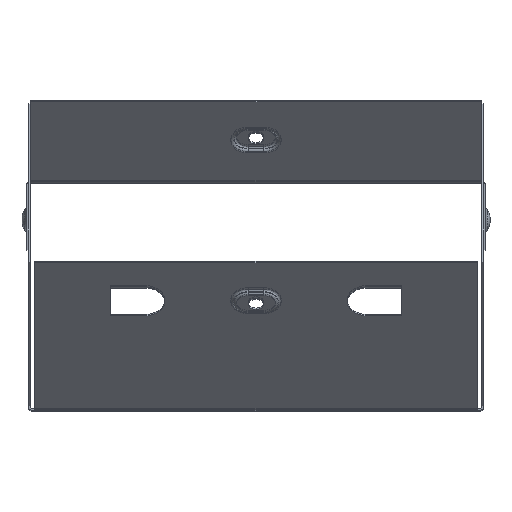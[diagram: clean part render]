
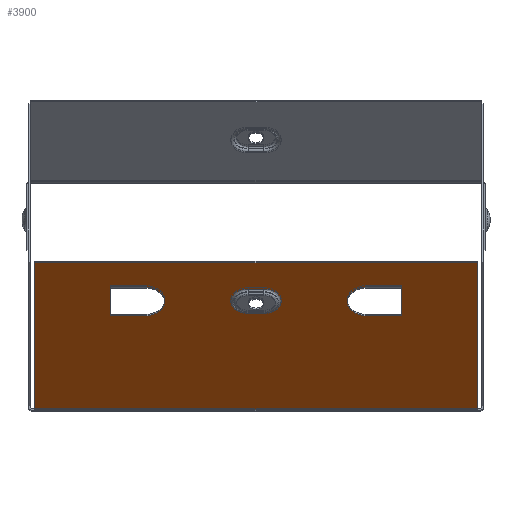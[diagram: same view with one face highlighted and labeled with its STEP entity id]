
A CAD part, top view. The second image highlights one B-rep face of the part: STEP entity #3900.
In plain terms, the highlighted planar face has unit normal (0, -0.707, 0.707).
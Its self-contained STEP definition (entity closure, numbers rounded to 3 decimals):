
#109 = AXIS2_PLACEMENT_3D ( 'NONE', #14232, #6458, #7566 ) ;
#141 = DIRECTION ( 'NONE',  ( 1., 0., 0. ) ) ;
#276 = VERTEX_POINT ( 'NONE', #6050 ) ;
#576 = EDGE_CURVE ( 'NONE', #11430, #632, #8690, .T. ) ;
#632 = VERTEX_POINT ( 'NONE', #1393 ) ;
#692 = CARTESIAN_POINT ( 'NONE',  ( -49., -46.53, 158.52 ) ) ;
#695 = AXIS2_PLACEMENT_3D ( 'NONE', #13648, #13797, #9340 ) ;
#696 = FACE_BOUND ( 'NONE', #12034, .T. ) ;
#721 = DIRECTION ( 'NONE',  ( 0., -0.707, -0.707 ) ) ;
#767 = CARTESIAN_POINT ( 'NONE',  ( 64., -46.53, 158.52 ) ) ;
#786 = CARTESIAN_POINT ( 'NONE',  ( 98.2, -35.923, 169.127 ) ) ;
#965 = LINE ( 'NONE', #4245, #13765 ) ;
#1062 = CARTESIAN_POINT ( 'NONE',  ( -49., -59.257, 145.793 ) ) ;
#1110 = CARTESIAN_POINT ( 'NONE',  ( -3.5, -47.521, 157.529 ) ) ;
#1393 = CARTESIAN_POINT ( 'NONE',  ( -97.299, -100.273, 104.777 ) ) ;
#1472 = EDGE_CURVE ( 'NONE', #5267, #10057, #965, .T. ) ;
#1538 = LINE ( 'NONE', #786, #13446 ) ;
#1540 = VECTOR ( 'NONE', #13554, 1000. ) ;
#1549 = ORIENTED_EDGE ( 'NONE', *, *, #11418, .T. ) ;
#1562 = LINE ( 'NONE', #6163, #7270 ) ;
#1624 = CARTESIAN_POINT ( 'NONE',  ( -64., -46.53, 158.52 ) ) ;
#1784 = VERTEX_POINT ( 'NONE', #12934 ) ;
#2026 = VERTEX_POINT ( 'NONE', #1110 ) ;
#2077 = CARTESIAN_POINT ( 'NONE',  ( 3.5, -58.266, 146.784 ) ) ;
#2461 = EDGE_CURVE ( 'NONE', #6124, #7941, #11900, .T. ) ;
#2620 = FACE_BOUND ( 'NONE', #2960, .T. ) ;
#2684 = LINE ( 'NONE', #1062, #14060 ) ;
#2883 = VERTEX_POINT ( 'NONE', #13030 ) ;
#2960 = EDGE_LOOP ( 'NONE', ( #12559, #14448, #8844, #13591 ) ) ;
#2967 = FACE_BOUND ( 'NONE', #7330, .T. ) ;
#2981 = EDGE_CURVE ( 'NONE', #276, #632, #13471, .T. ) ;
#3047 = VECTOR ( 'NONE', #11305, 1000. ) ;
#3213 = CARTESIAN_POINT ( 'NONE',  ( 3.5, -52.894, 152.156 ) ) ;
#3900 = ADVANCED_FACE ( 'NONE', ( #2967, #2620, #696, #9773 ), #10445, .F. ) ;
#3939 = CARTESIAN_POINT ( 'NONE',  ( 49., -59.257, 145.793 ) ) ;
#3967 = EDGE_CURVE ( 'NONE', #14474, #6124, #1562, .T. ) ;
#4027 = DIRECTION ( 'NONE',  ( 0., -0.707, -0.707 ) ) ;
#4245 = CARTESIAN_POINT ( 'NONE',  ( 49., -59.257, 145.793 ) ) ;
#4247 = DIRECTION ( 'NONE',  ( 0., 0.707, 0.707 ) ) ;
#4365 = VECTOR ( 'NONE', #721, 1000. ) ;
#4453 = LINE ( 'NONE', #10268, #8768 ) ;
#4797 = DIRECTION ( 'NONE',  ( 1., 0., 0. ) ) ;
#4885 = VERTEX_POINT ( 'NONE', #2077 ) ;
#5029 = CARTESIAN_POINT ( 'NONE',  ( -97.299, -100.8, 104.25 ) ) ;
#5267 = VERTEX_POINT ( 'NONE', #9843 ) ;
#5309 = DIRECTION ( 'NONE',  ( -1., 0., 0. ) ) ;
#5516 = ORIENTED_EDGE ( 'NONE', *, *, #9147, .T. ) ;
#5586 = CARTESIAN_POINT ( 'NONE',  ( -64., -46.53, 158.52 ) ) ;
#5794 = CARTESIAN_POINT ( 'NONE',  ( 49., -46.53, 158.52 ) ) ;
#5862 = EDGE_CURVE ( 'NONE', #9946, #5267, #13366, .T. ) ;
#5866 = EDGE_CURVE ( 'NONE', #13424, #2026, #10704, .T. ) ;
#6050 = CARTESIAN_POINT ( 'NONE',  ( -97.299, -35.923, 169.127 ) ) ;
#6106 = ORIENTED_EDGE ( 'NONE', *, *, #5862, .T. ) ;
#6124 = VERTEX_POINT ( 'NONE', #692 ) ;
#6152 = CARTESIAN_POINT ( 'NONE',  ( 3.5, -58.266, 146.784 ) ) ;
#6163 = CARTESIAN_POINT ( 'NONE',  ( -49., -46.53, 158.52 ) ) ;
#6234 = EDGE_CURVE ( 'NONE', #1784, #14474, #7562, .T. ) ;
#6302 = EDGE_CURVE ( 'NONE', #2883, #9946, #8089, .T. ) ;
#6315 = EDGE_LOOP ( 'NONE', ( #11340, #7440, #5516, #9065 ) ) ;
#6377 = AXIS2_PLACEMENT_3D ( 'NONE', #3213, #14505, #12393 ) ;
#6402 = DIRECTION ( 'NONE',  ( 0., 0.707, 0.707 ) ) ;
#6458 = DIRECTION ( 'NONE',  ( 0., 0.707, -0.707 ) ) ;
#6507 = AXIS2_PLACEMENT_3D ( 'NONE', #9868, #10952, #6402 ) ;
#6656 = CARTESIAN_POINT ( 'NONE',  ( 64., -46.53, 158.52 ) ) ;
#6751 = EDGE_CURVE ( 'NONE', #2026, #11599, #4453, .T. ) ;
#6829 = LINE ( 'NONE', #8794, #11367 ) ;
#7012 = ORIENTED_EDGE ( 'NONE', *, *, #6751, .T. ) ;
#7270 = VECTOR ( 'NONE', #4797, 1000. ) ;
#7330 = EDGE_LOOP ( 'NONE', ( #11164, #13238, #7362, #6106 ) ) ;
#7362 = ORIENTED_EDGE ( 'NONE', *, *, #6302, .T. ) ;
#7440 = ORIENTED_EDGE ( 'NONE', *, *, #576, .F. ) ;
#7562 = LINE ( 'NONE', #5586, #3047 ) ;
#7566 = DIRECTION ( 'NONE',  ( 0., -0.707, -0.707 ) ) ;
#7644 = VERTEX_POINT ( 'NONE', #14282 ) ;
#7707 = DIRECTION ( 'NONE',  ( -1., 0., 0. ) ) ;
#7750 = EDGE_CURVE ( 'NONE', #7644, #276, #1538, .T. ) ;
#7807 = CARTESIAN_POINT ( 'NONE',  ( 49., -52.894, 152.156 ) ) ;
#7941 = VERTEX_POINT ( 'NONE', #11351 ) ;
#8089 = LINE ( 'NONE', #5794, #10207 ) ;
#8651 = EDGE_CURVE ( 'NONE', #10057, #2883, #13009, .T. ) ;
#8690 = LINE ( 'NONE', #10262, #1540 ) ;
#8768 = VECTOR ( 'NONE', #11477, 1000. ) ;
#8794 = CARTESIAN_POINT ( 'NONE',  ( 97.299, -101.015, 104.035 ) ) ;
#8809 = DIRECTION ( 'NONE',  ( 0., 0.707, -0.707 ) ) ;
#8844 = ORIENTED_EDGE ( 'NONE', *, *, #2461, .T. ) ;
#8974 = DIRECTION ( 'NONE',  ( 0., 0.707, 0.707 ) ) ;
#9065 = ORIENTED_EDGE ( 'NONE', *, *, #7750, .T. ) ;
#9115 = DIRECTION ( 'NONE',  ( -1., 0., 0. ) ) ;
#9147 = EDGE_CURVE ( 'NONE', #11430, #7644, #6829, .T. ) ;
#9340 = DIRECTION ( 'NONE',  ( 0., 0.707, 0.707 ) ) ;
#9354 = EDGE_CURVE ( 'NONE', #7941, #1784, #2684, .T. ) ;
#9773 = FACE_OUTER_BOUND ( 'NONE', #6315, .T. ) ;
#9843 = CARTESIAN_POINT ( 'NONE',  ( 64., -59.257, 145.793 ) ) ;
#9868 = CARTESIAN_POINT ( 'NONE',  ( -3.5, -52.894, 152.156 ) ) ;
#9946 = VERTEX_POINT ( 'NONE', #6656 ) ;
#10057 = VERTEX_POINT ( 'NONE', #3939 ) ;
#10120 = CARTESIAN_POINT ( 'NONE',  ( 97.299, -100.273, 104.777 ) ) ;
#10207 = VECTOR ( 'NONE', #141, 1000. ) ;
#10262 = CARTESIAN_POINT ( 'NONE',  ( 98.2, -100.273, 104.777 ) ) ;
#10268 = CARTESIAN_POINT ( 'NONE',  ( 3.5, -47.521, 157.529 ) ) ;
#10341 = LINE ( 'NONE', #6152, #11196 ) ;
#10406 = CARTESIAN_POINT ( 'NONE',  ( 3.5, -47.521, 157.529 ) ) ;
#10445 = PLANE ( 'NONE',  #695 ) ;
#10704 = CIRCLE ( 'NONE', #6507, 7.598 ) ;
#10952 = DIRECTION ( 'NONE',  ( 0., 0.707, -0.707 ) ) ;
#11046 = CARTESIAN_POINT ( 'NONE',  ( -3.5, -58.266, 146.784 ) ) ;
#11164 = ORIENTED_EDGE ( 'NONE', *, *, #1472, .T. ) ;
#11196 = VECTOR ( 'NONE', #11805, 1000. ) ;
#11305 = DIRECTION ( 'NONE',  ( 0., 0.707, 0.707 ) ) ;
#11340 = ORIENTED_EDGE ( 'NONE', *, *, #2981, .T. ) ;
#11351 = CARTESIAN_POINT ( 'NONE',  ( -49., -59.257, 145.793 ) ) ;
#11367 = VECTOR ( 'NONE', #8974, 1000. ) ;
#11418 = EDGE_CURVE ( 'NONE', #11599, #4885, #11983, .T. ) ;
#11430 = VERTEX_POINT ( 'NONE', #10120 ) ;
#11477 = DIRECTION ( 'NONE',  ( 1., 0., 0. ) ) ;
#11599 = VERTEX_POINT ( 'NONE', #10406 ) ;
#11805 = DIRECTION ( 'NONE',  ( -1., 0., 0. ) ) ;
#11900 = CIRCLE ( 'NONE', #109, 9. ) ;
#11983 = CIRCLE ( 'NONE', #6377, 7.598 ) ;
#12034 = EDGE_LOOP ( 'NONE', ( #7012, #1549, #12086, #13605 ) ) ;
#12086 = ORIENTED_EDGE ( 'NONE', *, *, #14183, .T. ) ;
#12131 = VECTOR ( 'NONE', #4027, 1000. ) ;
#12393 = DIRECTION ( 'NONE',  ( 0., 0.707, 0.707 ) ) ;
#12559 = ORIENTED_EDGE ( 'NONE', *, *, #6234, .T. ) ;
#12934 = CARTESIAN_POINT ( 'NONE',  ( -64., -59.257, 145.793 ) ) ;
#13009 = CIRCLE ( 'NONE', #14024, 9. ) ;
#13030 = CARTESIAN_POINT ( 'NONE',  ( 49., -46.53, 158.52 ) ) ;
#13238 = ORIENTED_EDGE ( 'NONE', *, *, #8651, .T. ) ;
#13366 = LINE ( 'NONE', #767, #12131 ) ;
#13424 = VERTEX_POINT ( 'NONE', #11046 ) ;
#13446 = VECTOR ( 'NONE', #5309, 1000. ) ;
#13471 = LINE ( 'NONE', #5029, #4365 ) ;
#13554 = DIRECTION ( 'NONE',  ( -1., 0., 0. ) ) ;
#13591 = ORIENTED_EDGE ( 'NONE', *, *, #9354, .T. ) ;
#13605 = ORIENTED_EDGE ( 'NONE', *, *, #5866, .T. ) ;
#13648 = CARTESIAN_POINT ( 'NONE',  ( 98.2, -100.8, 104.25 ) ) ;
#13765 = VECTOR ( 'NONE', #7707, 1000. ) ;
#13797 = DIRECTION ( 'NONE',  ( 0., 0.707, -0.707 ) ) ;
#14024 = AXIS2_PLACEMENT_3D ( 'NONE', #7807, #8809, #4247 ) ;
#14060 = VECTOR ( 'NONE', #9115, 1000. ) ;
#14183 = EDGE_CURVE ( 'NONE', #4885, #13424, #10341, .T. ) ;
#14232 = CARTESIAN_POINT ( 'NONE',  ( -49., -52.894, 152.156 ) ) ;
#14282 = CARTESIAN_POINT ( 'NONE',  ( 97.299, -35.923, 169.127 ) ) ;
#14448 = ORIENTED_EDGE ( 'NONE', *, *, #3967, .T. ) ;
#14474 = VERTEX_POINT ( 'NONE', #1624 ) ;
#14505 = DIRECTION ( 'NONE',  ( 0., 0.707, -0.707 ) ) ;
